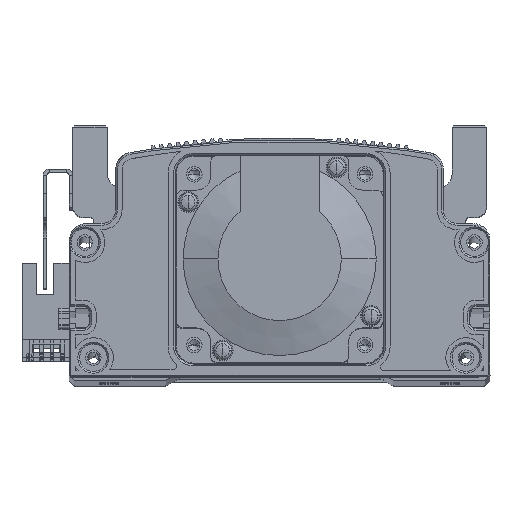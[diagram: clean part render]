
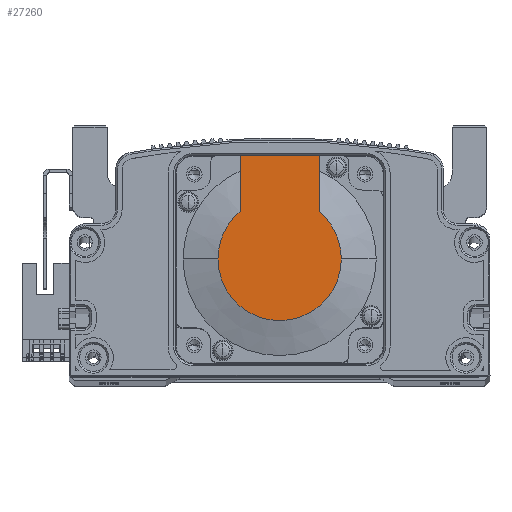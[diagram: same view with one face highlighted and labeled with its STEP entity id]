
A CAD part, top view. The second image highlights one B-rep face of the part: STEP entity #27260.
In plain terms, the highlighted planar face has unit normal (0, 0, 1) as drawn and (-1, 0, 0) by its records, which use the part's own axes.
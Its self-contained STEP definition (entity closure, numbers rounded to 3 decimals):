
#496 = AXIS2_PLACEMENT_3D ( 'NONE', #27995, #49793, #15761 ) ;
#665 = CARTESIAN_POINT ( 'NONE',  ( -118.5, -8.941, -11.45 ) ) ;
#871 = FACE_OUTER_BOUND ( 'NONE', #64404, .T. ) ;
#956 = EDGE_CURVE ( 'NONE', #9977, #21122, #21423, .T. ) ;
#1379 = VERTEX_POINT ( 'NONE', #22294 ) ;
#3321 = EDGE_CURVE ( 'NONE', #1379, #51438, #15750, .T. ) ;
#3865 = VECTOR ( 'NONE', #9396, 1000. ) ;
#4690 = EDGE_CURVE ( 'NONE', #21122, #67353, #68016, .T. ) ;
#6139 = CARTESIAN_POINT ( 'NONE',  ( -118.5, 13.735, -11.45 ) ) ;
#6903 = CARTESIAN_POINT ( 'NONE',  ( -118.5, 13.735, 11.45 ) ) ;
#9396 = DIRECTION ( 'NONE',  ( 0., -1., 0. ) ) ;
#9977 = VERTEX_POINT ( 'NONE', #27560 ) ;
#10144 = EDGE_CURVE ( 'NONE', #1379, #63554, #55563, .T. ) ;
#15750 = LINE ( 'NONE', #41986, #59358 ) ;
#15761 = DIRECTION ( 'NONE',  ( 0., 0., 1. ) ) ;
#17288 = AXIS2_PLACEMENT_3D ( 'NONE', #61831, #27803, #67509 ) ;
#17821 = DIRECTION ( 'NONE',  ( 0., 0., -1. ) ) ;
#21122 = VERTEX_POINT ( 'NONE', #53581 ) ;
#21423 = CIRCLE ( 'NONE', #72767, 17.881 ) ;
#21449 = ORIENTED_EDGE ( 'NONE', *, *, #30071, .T. ) ;
#21759 = PLANE ( 'NONE',  #496 ) ;
#22294 = CARTESIAN_POINT ( 'NONE',  ( -118.5, 30., -11.45 ) ) ;
#23131 = CARTESIAN_POINT ( 'NONE',  ( -118.5, 0., 0. ) ) ;
#25020 = ORIENTED_EDGE ( 'NONE', *, *, #956, .T. ) ;
#25105 = DIRECTION ( 'NONE',  ( 0., 0., 1. ) ) ;
#27260 = ADVANCED_FACE ( 'NONE', ( #871 ), #21759, .T. ) ;
#27560 = CARTESIAN_POINT ( 'NONE',  ( -118.5, 0., -17.881 ) ) ;
#27803 = DIRECTION ( 'NONE',  ( -1., 0., 0. ) ) ;
#27995 = CARTESIAN_POINT ( 'NONE',  ( -118.5, -8.941, 0. ) ) ;
#30071 = EDGE_CURVE ( 'NONE', #63554, #9977, #47690, .T. ) ;
#31713 = EDGE_CURVE ( 'NONE', #51438, #67353, #44761, .T. ) ;
#34262 = DIRECTION ( 'NONE',  ( 0., -1., 0. ) ) ;
#40207 = ORIENTED_EDGE ( 'NONE', *, *, #4690, .T. ) ;
#41986 = CARTESIAN_POINT ( 'NONE',  ( -118.5, 30., 25. ) ) ;
#44761 = LINE ( 'NONE', #49434, #3865 ) ;
#47690 = CIRCLE ( 'NONE', #67365, 17.881 ) ;
#49434 = CARTESIAN_POINT ( 'NONE',  ( -118.5, 0., 11.45 ) ) ;
#49793 = DIRECTION ( 'NONE',  ( -1., 0., 0. ) ) ;
#51438 = VERTEX_POINT ( 'NONE', #57440 ) ;
#53581 = CARTESIAN_POINT ( 'NONE',  ( -118.5, 0., 17.881 ) ) ;
#55563 = LINE ( 'NONE', #665, #71520 ) ;
#55751 = ORIENTED_EDGE ( 'NONE', *, *, #3321, .F. ) ;
#57407 = ORIENTED_EDGE ( 'NONE', *, *, #10144, .T. ) ;
#57440 = CARTESIAN_POINT ( 'NONE',  ( -118.5, 30., 11.45 ) ) ;
#59358 = VECTOR ( 'NONE', #25105, 1000. ) ;
#59653 = DIRECTION ( 'NONE',  ( 0., 0., -1. ) ) ;
#60174 = DIRECTION ( 'NONE',  ( -1., 0., 0. ) ) ;
#61831 = CARTESIAN_POINT ( 'NONE',  ( -118.5, 0., 0. ) ) ;
#62378 = DIRECTION ( 'NONE',  ( -1., 0., 0. ) ) ;
#63554 = VERTEX_POINT ( 'NONE', #6139 ) ;
#64404 = EDGE_LOOP ( 'NONE', ( #57407, #21449, #25020, #40207, #68974, #55751 ) ) ;
#65119 = CARTESIAN_POINT ( 'NONE',  ( -118.5, 0., 0. ) ) ;
#67353 = VERTEX_POINT ( 'NONE', #6903 ) ;
#67365 = AXIS2_PLACEMENT_3D ( 'NONE', #65119, #60174, #59653 ) ;
#67509 = DIRECTION ( 'NONE',  ( 0., 0., -1. ) ) ;
#68016 = CIRCLE ( 'NONE', #17288, 17.881 ) ;
#68974 = ORIENTED_EDGE ( 'NONE', *, *, #31713, .F. ) ;
#71520 = VECTOR ( 'NONE', #34262, 1000. ) ;
#72767 = AXIS2_PLACEMENT_3D ( 'NONE', #23131, #62378, #17821 ) ;
